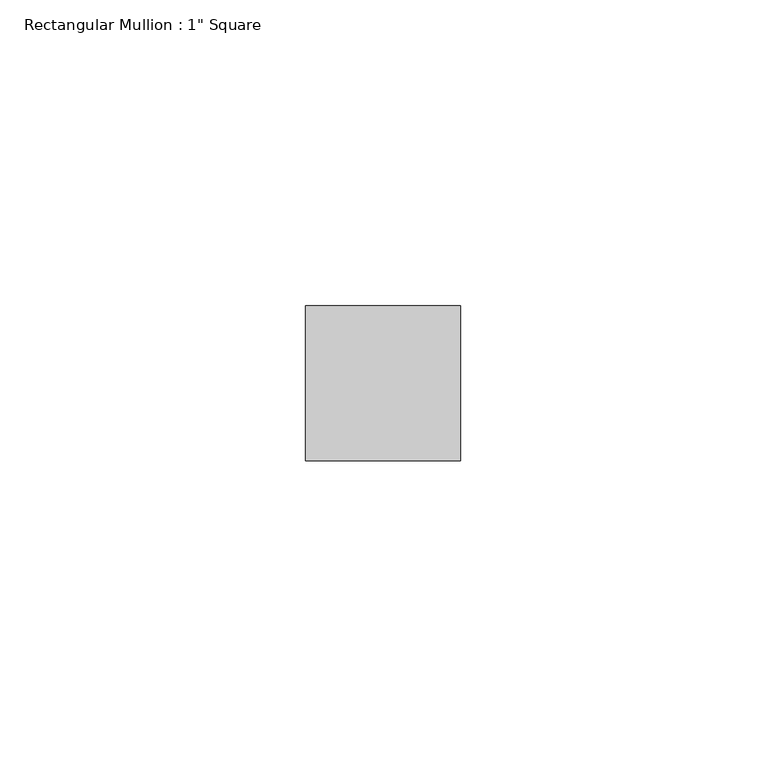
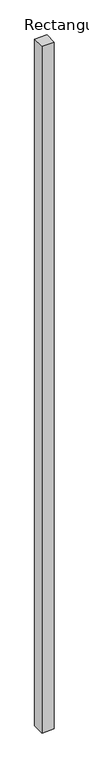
"""IFC4 building model written with IfcOpenShell, lengths in millimetres: member geometry."""

from ifc_helpers import new_model, si_unit, frame, origin, place, context, project, spatial, polyline, outline, extrude, source, transform, mapped, element, save


def member_0e8a41c0(model_context):
    return source(origin(), model_context, "Body", "SweptSolid", [
        extrude(outline(polyline([(12.7, 12.7), (12.7, -12.7), (-12.7, -12.7), (-12.7, 12.7), (12.7, 12.7)])), frame((0.0, 0.0, -1486.0458208), z_axis=(0.0, 0.0, 1.0), x_axis=(1.0, 0.0, 0.0)), (0.0, 0.0, 1.0), 1486.0458208),
    ])


if __name__ == "__main__":
    model = new_model("IFC4")
    model_context = context("Model", 3, world=origin())
    ifc_project = project(units=[si_unit("LENGTHUNIT", "METRE", prefix="MILLI")], contexts=[model_context])
    site = spatial("IfcSite", under=ifc_project)
    building = spatial("IfcBuilding", under=site)
    placement = place(None, origin())
    member_shape = member_0e8a41c0(model_context)
    element("IfcMember", 1, ObjectType="Rectangular Mullion : 1\" Square", at=placement, inside=building, context=model_context, shape_type="MappedRepresentation", body=[
        mapped(member_shape, transform((0.0, 0.0, 0.0), x_axis=(1.0, 0.0, 0.0), y_axis=(0.0, 1.0, 0.0), z_axis=(0.0, 0.0, 1.0))),
    ])
    save(model, "model.ifc")
